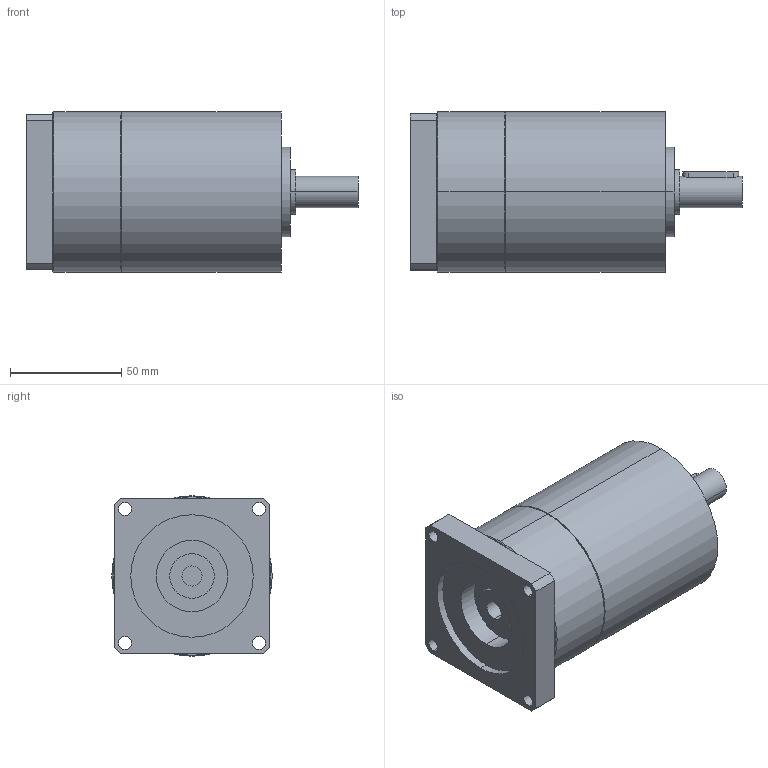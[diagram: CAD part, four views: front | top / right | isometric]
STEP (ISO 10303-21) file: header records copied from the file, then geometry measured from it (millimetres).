
FILE_DESCRIPTION(('CoCreate Modeling STEP Export'),'2;1');
FILE_NAME('GPT75_ig-9-12-16-20-25-28-35-40-50-70-100_14_B14T_9_P25.stp','2014-08-27T13:27:29',(''),(''),'CoCreate Modeling STEP processor for AP214 (Solid Model)','CoCreate Modeling 16.00C 25-Feb-2009 (C) Parametric Technology GmbH','');
FILE_SCHEMA(('AUTOMOTIVE_DESIGN { 1 0 10303 214 1 1 1 1 }'));
Length unit declared in the file: millimetre
Products named in the file (2): GPT75_ig-9-12-16-20-25-28-35-40-50-70-100_14_B14T_9_P25
Assembly tree (1 placements, depth 2):
  GPT75_ig-9-12-16-20-25-28-35-40-50-70-100_14_B14T_9_P25
    GPT75_ig-9-12-16-20-25-28-35-40-50-70-100_14_B14T_9_P25
Bounding box: 149 x 72 x 72 mm (x, y, z)
Volume: 467880.6 mm3; surface area: 42665.4 mm2
Topology: 1 solids, 1 shells, 76 faces, 182 edges, 121 vertices
Faces by surface type: cylinder 42, plane 30, cone 4
Entity records: 2265 total; most frequent: CARTESIAN_POINT 677, ORIENTED_EDGE 364, DIRECTION 268, EDGE_CURVE 182, VERTEX_POINT 121, AXIS2_PLACEMENT_3D 100, EDGE_LOOP 97, FACE_OUTER_BOUND 76
